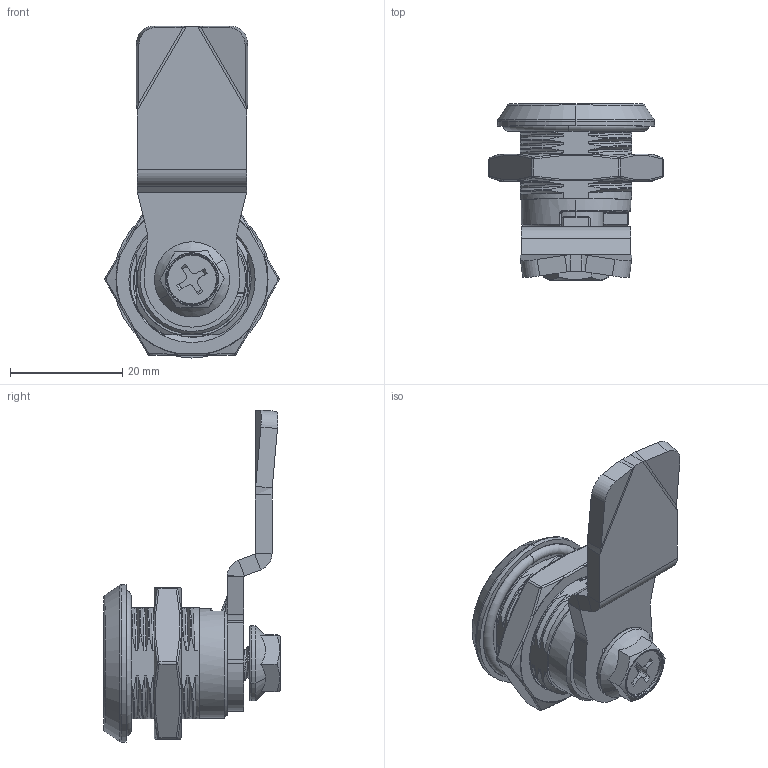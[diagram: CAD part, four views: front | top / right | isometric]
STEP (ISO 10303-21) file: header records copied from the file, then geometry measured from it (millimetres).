
FILE_DESCRIPTION (( 'STEP AP214' ), '1' );
FILE_NAME ('CUYUE.D1-1401-038.STEP', '2026-06-16T02:14:50', ( '' ), ( '' ), 'SwSTEP 2.0', 'SolidWorks 2020', '' );
FILE_SCHEMA (( 'AUTOMOTIVE_DESIGN' ));
Length unit declared in the file: millimetre
Products named in the file (9): 2X26密封圈; CAM4505; D1-1401-013坶褲; J-M22蹟譫; M6X8蹟隊; 10.2X0.3等疏え; CUYUE.D1-1401-038; D1-1401-038坶郋; 2X16密封圈
Assembly tree (9 placements, depth 2):
  CUYUE.D1-1401-038
    D1-1401-013坶褲
    2X16密封圈  x2
    2X26密封圈
    10.2X0.3等疏え
    M6X8蹟隊
    D1-1401-038坶郋
    CAM4505
    J-M22蹟譫
Bounding box: 31.02 x 31.5 x 59.13 mm (x, y, z)
Volume: 11545.1 mm3; surface area: 11137.9 mm2
Topology: 9 solids, 9 shells, 567 faces, 1429 edges, 879 vertices
Faces by surface type: bspline 193, cylinder 174, plane 113, cone 48, torus 35, sphere 4
Entity records: 54174 total; most frequent: CARTESIAN_POINT 42237, ORIENTED_EDGE 2830, DIRECTION 1881, EDGE_CURVE 1415, VERTEX_POINT 875, AXIS2_PLACEMENT_3D 728, EDGE_LOOP 582, ADVANCED_FACE 563
